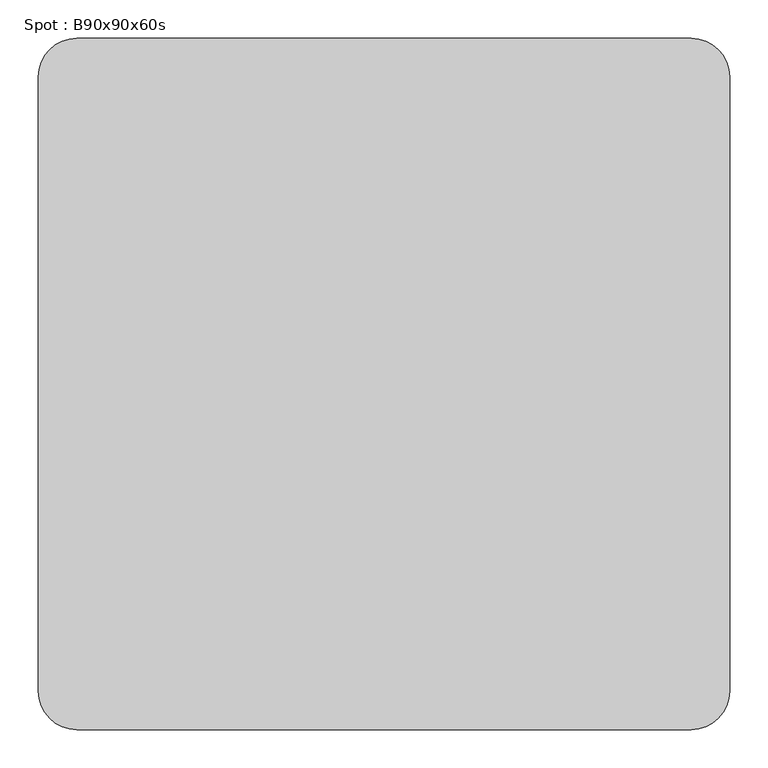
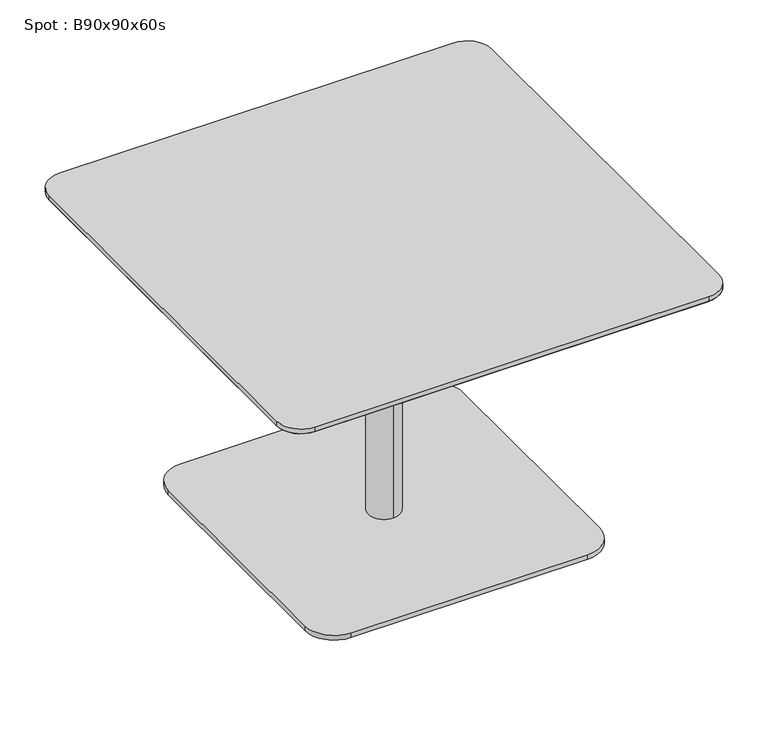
"""IFC4 building model written with IfcOpenShell, lengths in millimetres: furniture geometry, Spot : B90x90x60s."""

from ifc_helpers import new_model, si_unit, point, frame, frame_2d, origin, origin_with_axes, place, context, project, spatial, polyline, circle_curve, trimmed, segment, composite_curve, outline, extrude, source, transform, mapped, element, save
from ifc_brep_helpers import plane_surface, cylinder_surface, revolved_surface, advanced_brep


def spot_b90x90x60s_c98173cc(model_context):
    return source(origin(), model_context, "Body", "SolidModel", [
        advanced_brep(
        [(-400.0, -400.0, 578.0), (-400.0, 400.0, 578.0), (400.0, 400.0, 578.0), (400.0, -400.0, 578.0), (-450.0, -400.0, 590.0), (-400.0, -450.0, 590.0), (400.0, -450.0, 590.0), (450.0, -400.0, 590.0), (450.0, 400.0, 590.0), (400.0, 450.0, 590.0), (-400.0, 450.0, 590.0), (-450.0, 400.0, 590.0)],
        [
            (0, 1),
            (1, 2),
            (2, 3),
            (3, 0),
            (4, 5, circle_curve(frame((-400.0, -400.0, 590.0), z_axis=(0.0, 0.0, 1.0), x_axis=(0.0, -1.0, 0.0)), 50.0)),
            (5, 6),
            (6, 7, circle_curve(frame((400.0, -400.0, 590.0), z_axis=(0.0, 0.0, 1.0), x_axis=(1.0, 0.0, 0.0)), 50.0)),
            (7, 8),
            (8, 9, circle_curve(frame((400.0, 400.0, 590.0), z_axis=(0.0, 0.0, 1.0), x_axis=(0.0, 1.0, 0.0)), 50.0)),
            (9, 10),
            (10, 11, circle_curve(frame((-400.0, 400.0, 590.0), z_axis=(0.0, 0.0, 1.0), x_axis=(-1.0, 0.0, 0.0)), 50.0)),
            (11, 4),
            (4, 0),
            (0, 5),
            (3, 6),
            (3, 7),
            (2, 8),
            (2, 9),
            (1, 10),
            (1, 11),
        ],
        [
            plane_surface(frame((0.0, 0.0, 578.0), z_axis=(0.0, 0.0, -1.0), x_axis=(-1.0, 0.0, 0.0))),
            plane_surface(frame((0.0, 0.0, 590.0), z_axis=(0.0, 0.0, 1.0), x_axis=(-1.0, 0.0, 0.0))),
            revolved_surface(polyline([(-400.0, -400.0, 578.0), (-400.0, -450.0, 590.0)]), (-400.0, -400.0, 578.0), (0.0, 0.0, 1.0)),
            plane_surface(frame((0.0, -450.0, 590.0), z_axis=(0.0, -0.23337295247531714, -0.9723873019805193), x_axis=(-1.0, 0.0, 0.0))),
            revolved_surface(polyline([(400.0, -400.0, 578.0), (450.0, -400.0, 590.0)]), (400.0, -400.0, 578.0), (0.0, 0.0, 1.0)),
            plane_surface(frame((450.0, 0.0, 590.0), z_axis=(0.23337295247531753, 0.0, -0.9723873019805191), x_axis=(0.0, -1.0, 0.0))),
            revolved_surface(polyline([(400.0, 400.0, 578.0), (400.0, 450.0, 590.0)]), (400.0, 400.0, 578.0), (0.0, 0.0, 1.0)),
            plane_surface(frame((0.0, 450.0, 590.0), z_axis=(0.0, 0.23337295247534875, -0.9723873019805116), x_axis=(1.0, 0.0, 0.0))),
            revolved_surface(polyline([(-400.0, 400.0, 578.0), (-450.0, 400.0, 590.0)]), (-400.0, 400.0, 578.0), (0.0, 0.0, 1.0)),
            plane_surface(frame((-450.0, 0.0, 590.0), z_axis=(-0.2333729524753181, 0.0, -0.9723873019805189), x_axis=(0.0, 1.0, 0.0))),
        ],
        [
            (0, [[1, 2, 3, 4]]),
            (1, [[5, 6, 7, 8, 9, 10, 11, 12]]),
            (2, [[-5, 13, 14]]),
            (3, [[-6, -14, -4, 15]]),
            (4, [[-7, -15, 16]]),
            (5, [[-8, -16, -3, 17]]),
            (6, [[-9, -17, 18]]),
            (7, [[-10, -18, -2, 19]]),
            (8, [[-11, -19, 20]]),
            (9, [[-12, -20, -1, -13]]),
        ],
    ),
        extrude(outline(composite_curve([segment(trimmed(circle_curve(frame_2d((400.0, 400.0)), 50.0), [point((400.0, 450.0))], [point((450.0, 400.0))], False, "CARTESIAN"), True, "CONTINUOUS"), segment(polyline([(450.0, 400.0), (450.0, -400.0)]), True, "CONTINUOUS"), segment(trimmed(circle_curve(frame_2d((400.0, -400.0)), 50.0), [point((450.0, -400.0))], [point((400.0, -450.0))], False, "CARTESIAN"), True, "CONTINUOUS"), segment(polyline([(400.0, -450.0), (-400.0, -450.0)]), True, "CONTINUOUS"), segment(trimmed(circle_curve(frame_2d((-400.0, -400.0)), 50.0), [point((-400.0, -450.0))], [point((-450.0, -400.0))], False, "CARTESIAN"), True, "CONTINUOUS"), segment(polyline([(-450.0, -400.0), (-450.0, 400.0)]), True, "CONTINUOUS"), segment(trimmed(circle_curve(frame_2d((-400.0, 400.0)), 50.0), [point((-450.0, 400.0))], [point((-400.0, 450.0))], False, "CARTESIAN"), True, "CONTINUOUS"), segment(polyline([(-400.0, 450.0), (400.0, 450.0)]), True, "CONTINUOUS")], self_intersect=False)), frame((0.0, 0.0, 590.0), z_axis=(0.0, 0.0, 1.0), x_axis=(1.0, 0.0, 0.0)), (0.0, 0.0, 1.0), 10.0),
        extrude(outline(composite_curve([segment(trimmed(circle_curve(frame_2d((240.0, 240.0)), 60.0), [point((240.0, 300.0))], [point((300.0, 240.0))], False, "CARTESIAN"), True, "CONTINUOUS"), segment(polyline([(300.0, 240.0), (300.0, -240.0)]), True, "CONTINUOUS"), segment(trimmed(circle_curve(frame_2d((240.0, -240.0)), 60.0), [point((300.0, -240.0))], [point((240.0, -300.0))], False, "CARTESIAN"), True, "CONTINUOUS"), segment(polyline([(240.0, -300.0), (-240.0, -300.0)]), True, "CONTINUOUS"), segment(trimmed(circle_curve(frame_2d((-240.0, -240.0)), 60.0), [point((-240.0, -300.0))], [point((-300.0, -240.0))], False, "CARTESIAN"), True, "CONTINUOUS"), segment(polyline([(-300.0, -240.0), (-300.0, 240.0)]), True, "CONTINUOUS"), segment(trimmed(circle_curve(frame_2d((-240.0, 240.0)), 60.0), [point((-300.0, 240.0))], [point((-240.0, 300.0))], False, "CARTESIAN"), True, "CONTINUOUS"), segment(polyline([(-240.0, 300.0), (240.0, 300.0)]), True, "CONTINUOUS")], self_intersect=False)), origin_with_axes(), (0.0, 0.0, 1.0), 10.0),
        advanced_brep(
        [(0.0, 32.0, 10.0), (0.0, -32.0, 10.0), (0.0, -32.0, 547.406916), (0.0, 32.0, 547.406916), (0.0, 0.0, 10.0), (0.0, 150.0, 578.0), (0.0, -150.0, 578.0), (0.0, 0.0, 578.0), (0.0, 150.0, 566.7213673), (0.0, -150.0, 566.7213673)],
        [
            (0, 1, circle_curve(frame((0.0, 0.0, 10.0), z_axis=(0.0, 0.0, 1.0), x_axis=(0.0, -1.0, 0.0)), 32.0)),
            (1, 2),
            (2, 3, circle_curve(frame((0.0, 0.0, 547.406916), z_axis=(0.0, 0.0, -1.0), x_axis=(0.0, -1.0, 0.0)), 32.0)),
            (3, 0),
            (1, 0, circle_curve(frame((0.0, 0.0, 10.0), z_axis=(0.0, 0.0, 1.0), x_axis=(0.0, -1.0, 0.0)), 32.0)),
            (3, 2, circle_curve(frame((0.0, 0.0, 547.406916), z_axis=(0.0, 0.0, -1.0), x_axis=(0.0, -1.0, 0.0)), 32.0)),
            (4, 1),
            (0, 4),
            (5, 6, circle_curve(frame((0.0, 0.0, 578.0), z_axis=(0.0, 0.0, 1.0), x_axis=(0.0, -1.0, 0.0)), 150.0)),
            (6, 7),
            (7, 5),
            (6, 5, circle_curve(frame((0.0, 0.0, 578.0), z_axis=(0.0, 0.0, 1.0), x_axis=(0.0, -1.0, 0.0)), 150.0)),
            (8, 9, circle_curve(frame((0.0, 0.0, 566.7213673), z_axis=(0.0, 0.0, 1.0), x_axis=(0.0, -1.0, 0.0)), 150.0)),
            (9, 6),
            (5, 8),
            (9, 8, circle_curve(frame((0.0, 0.0, 566.7213673), z_axis=(0.0, 0.0, 1.0), x_axis=(0.0, -1.0, 0.0)), 150.0)),
            (2, 9),
            (8, 3),
        ],
        [
            cylinder_surface(frame((0.0, 0.0, 940.0), z_axis=(0.0, 0.0, -1.0), x_axis=(0.0, -1.0, 0.0)), 32.0),
            plane_surface(frame((0.0, 0.0, 10.0), z_axis=(0.0, 0.0, -1.0), x_axis=(0.0, -1.0, 0.0))),
            plane_surface(frame((0.0, 0.0, 578.0), z_axis=(0.0, 0.0, 1.0), x_axis=(0.0, -1.0, 0.0))),
            cylinder_surface(frame((0.0, 0.0, 940.0), z_axis=(0.0, 0.0, -1.0), x_axis=(0.0, -1.0, 0.0)), 150.0),
            revolved_surface(polyline([(0.0, -150.0, 566.7213673), (0.0, -32.0, 547.406916)]), (0.0, 0.0, 940.0), (0.0, 0.0, -1.0)),
        ],
        [
            (0, [[1, 2, 3, 4]]),
            (0, [[5, -4, 6, -2]]),
            (1, [[7, -1, 8]]),
            (1, [[-8, -5, -7]]),
            (2, [[9, 10, 11]]),
            (2, [[12, -11, -10]]),
            (3, [[13, 14, -9, 15]]),
            (3, [[16, -15, -12, -14]]),
            (4, [[-3, 17, -13, 18]]),
            (4, [[-6, -18, -16, -17]]),
        ],
    ),
        extrude(outline(polyline([(0.0, 0.0), (-20.0, 0.0), (-20.0, 20.0), (0.0, 20.0), (0.0, 0.0)])), origin_with_axes(), (0.0, 0.0, 1.0), 10.0),
    ])


if __name__ == "__main__":
    model = new_model("IFC4")
    model_context = context("Model", 3, world=origin())
    ifc_project = project(units=[si_unit("LENGTHUNIT", "METRE", prefix="MILLI")], contexts=[model_context])
    site = spatial("IfcSite", under=ifc_project)
    building = spatial("IfcBuilding", under=site)
    placement = place(None, origin())
    spot_b90x90x60s_shape = spot_b90x90x60s_c98173cc(model_context)
    element("IfcFurniture", 1, ObjectType="Spot : B90x90x60s", at=placement, inside=building, context=model_context, shape_type="MappedRepresentation", body=[
        mapped(spot_b90x90x60s_shape, transform((0.0, 0.0, 0.0), x_axis=(1.0, 0.0, 0.0), y_axis=(0.0, 1.0, 0.0), z_axis=(0.0, 0.0, 1.0))),
    ])
    save(model, "model.ifc")
